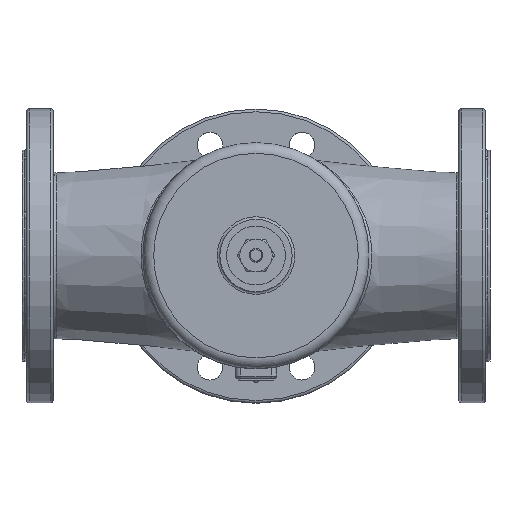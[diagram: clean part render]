
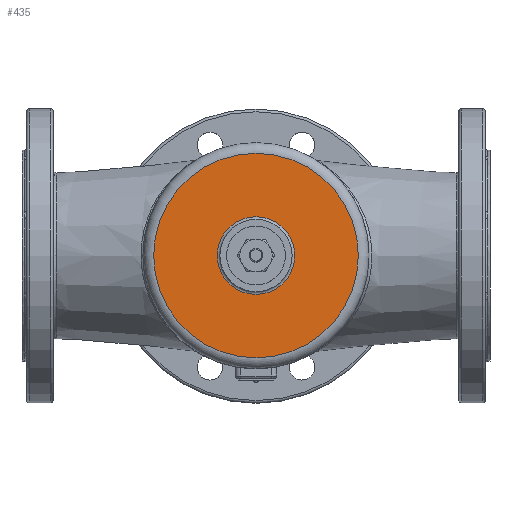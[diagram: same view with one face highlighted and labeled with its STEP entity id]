
A CAD part, top view. The second image highlights one B-rep face of the part: STEP entity #435.
In plain terms, the highlighted planar face has unit normal (0, 0, 1).
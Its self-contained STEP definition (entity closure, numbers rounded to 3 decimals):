
#435=ADVANCED_FACE('',(#631,#632),#581,.T.);
#581=PLANE('',#2566);
#631=FACE_BOUND('',#799,.T.);
#632=FACE_BOUND('',#800,.T.);
#799=EDGE_LOOP('',(#1107));
#800=EDGE_LOOP('',(#1108));
#1107=ORIENTED_EDGE('',*,*,#1999,.T.);
#1108=ORIENTED_EDGE('',*,*,#2000,.T.);
#1758=VERTEX_POINT('',#4239);
#1759=VERTEX_POINT('',#4241);
#1999=EDGE_CURVE('',#1758,#1758,#2316,.T.);
#2000=EDGE_CURVE('',#1759,#1759,#2317,.T.);
#2316=CIRCLE('',#2564,76.5);
#2317=CIRCLE('',#2565,29.);
#2564=AXIS2_PLACEMENT_3D('',#4238,#2999,#3000);
#2565=AXIS2_PLACEMENT_3D('',#4240,#3001,#3002);
#2566=AXIS2_PLACEMENT_3D('',#4242,#3003,#3004);
#2999=DIRECTION('',(0.,0.,1.));
#3000=DIRECTION('',(1.,0.,0.));
#3001=DIRECTION('',(0.,0.,-1.));
#3002=DIRECTION('',(1.,0.,0.));
#3003=DIRECTION('',(0.,0.,1.));
#3004=DIRECTION('',(1.,0.,0.));
#4238=CARTESIAN_POINT('',(370.,0.,100.5));
#4239=CARTESIAN_POINT('',(446.5,0.,100.5));
#4240=CARTESIAN_POINT('',(370.,0.,100.5));
#4241=CARTESIAN_POINT('',(399.,0.,100.5));
#4242=CARTESIAN_POINT('',(370.,0.,100.5));
